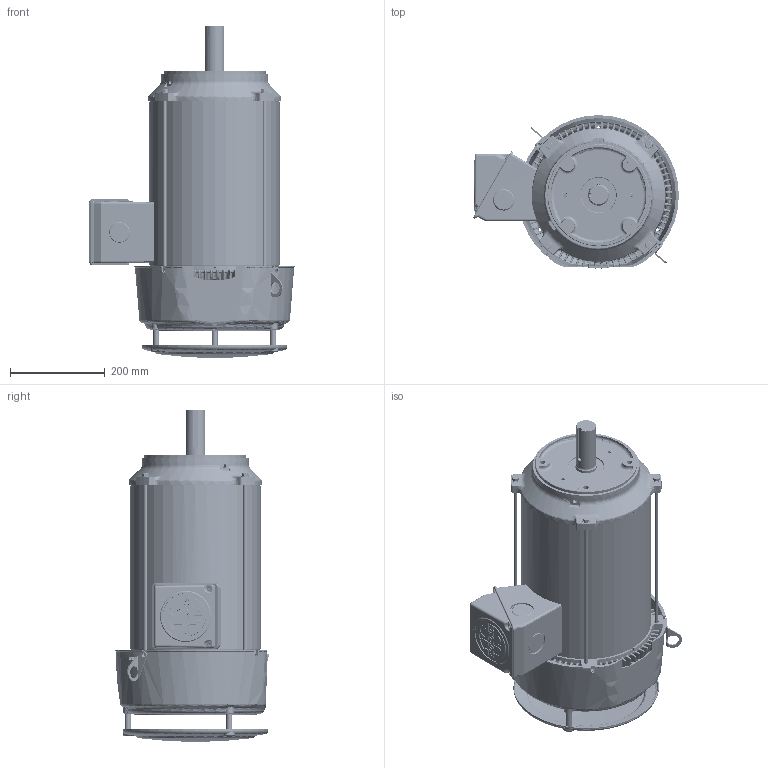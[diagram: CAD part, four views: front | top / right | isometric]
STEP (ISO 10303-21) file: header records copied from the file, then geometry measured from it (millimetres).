
FILE_DESCRIPTION((''),'2;1');
FILE_NAME('250RS_CFACE_ASSY_ASM','2021-02-28T07:23:51',('EMD2341'),('Nidec Motor Corporation'),'CREO PARAMETRIC BY PTC INC, 2019080','CREO PARAMETRIC BY PTC INC, 2019080','');
FILE_SCHEMA(('CONFIG_CONTROL_DESIGN'));
Length unit declared in the file: inch
Products named in the file (20): 2091638_AF0; 0370425-BKT_AF1; 2033996-005_AF1; 2087907_ASM; 0375099-BKT_AF11; 2033996-004_AF1; 2078169_ASM; 0172877; 250TC; 0356644; 0587751; 0375602; 0364282; 0364292; 0389564; 0364285; 0369609; PRT0001; 0365536; 250RS_CFACE_ASSY_ASM
Assembly tree (25 placements, depth 3):
  250RS_CFACE_ASSY_ASM
    2091638_AF0
    2087907_ASM
      0370425-BKT_AF1
      2033996-005_AF1
    2078169_ASM
      0375099-BKT_AF11
      2033996-004_AF1
    0172877
    250TC
    0356644
    0587751
    0375602
    0364282
    0364292
    0389564  x4
    0364285
    0369609  x2
    PRT0001  x3
    0365536
Bounding box: 435.49 x 325.35 x 702.61 mm (x, y, z)
Volume: 6014739.2 mm3; surface area: 2252937 mm2
Topology: 27 solids, 37 shells, 9060 faces, 21273 edges, 12263 vertices
Faces by surface type: bspline 4850, plane 1270, cylinder 1251, torus 948, cone 545, sphere 196
Entity records: 480779 total; most frequent: CARTESIAN_POINT 309094, ORIENTED_EDGE 41924, DIRECTION 27097, EDGE_CURVE 20975, VERTEX_POINT 12093, AXIS2_PLACEMENT_3D 11335, B_SPLINE_CURVE_WITH_KNOTS 9348, EDGE_LOOP 9163
